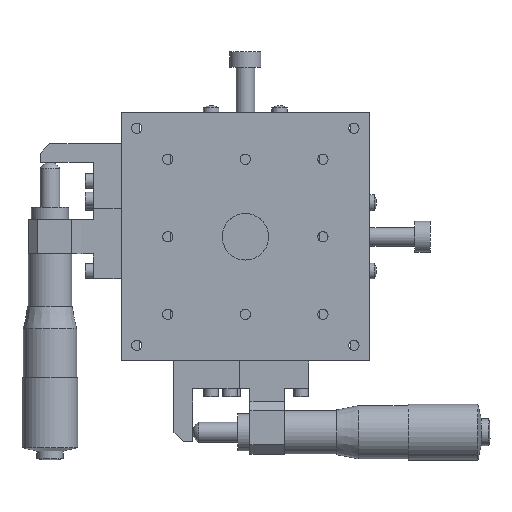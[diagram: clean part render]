
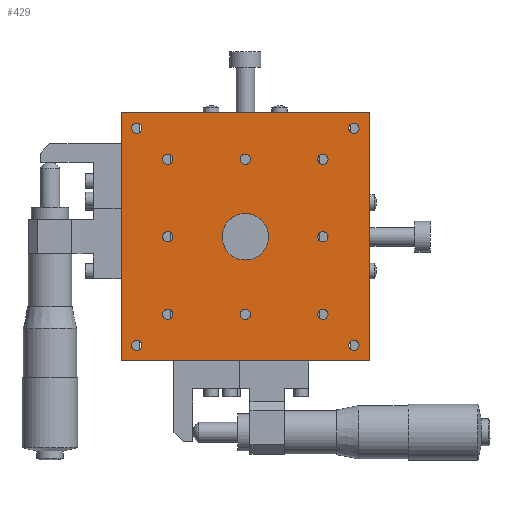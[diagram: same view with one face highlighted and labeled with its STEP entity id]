
A CAD part, top view. The second image highlights one B-rep face of the part: STEP entity #429.
In plain terms, the highlighted planar face has unit normal (0, 0, 1).
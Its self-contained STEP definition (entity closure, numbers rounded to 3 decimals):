
#429 = ADVANCED_FACE( '', ( #1061, #1062, #1063, #1064, #1065, #1066, #1067, #1068, #1069, #1070, #1071, #1072, #1073, #1074 ), #1075, .T. );
#1061 = FACE_BOUND( '', #2004, .T. );
#1062 = FACE_BOUND( '', #2005, .T. );
#1063 = FACE_BOUND( '', #2006, .T. );
#1064 = FACE_BOUND( '', #2007, .T. );
#1065 = FACE_BOUND( '', #2008, .T. );
#1066 = FACE_BOUND( '', #2009, .T. );
#1067 = FACE_BOUND( '', #2010, .T. );
#1068 = FACE_BOUND( '', #2011, .T. );
#1069 = FACE_BOUND( '', #2012, .T. );
#1070 = FACE_BOUND( '', #2013, .T. );
#1071 = FACE_BOUND( '', #2014, .T. );
#1072 = FACE_BOUND( '', #2015, .T. );
#1073 = FACE_OUTER_BOUND( '', #2016, .T. );
#1074 = FACE_BOUND( '', #2017, .T. );
#1075 = PLANE( '', #2018 );
#2004 = EDGE_LOOP( '', ( #3182 ) );
#2005 = EDGE_LOOP( '', ( #3183 ) );
#2006 = EDGE_LOOP( '', ( #3184 ) );
#2007 = EDGE_LOOP( '', ( #3185 ) );
#2008 = EDGE_LOOP( '', ( #3186 ) );
#2009 = EDGE_LOOP( '', ( #3187 ) );
#2010 = EDGE_LOOP( '', ( #3188 ) );
#2011 = EDGE_LOOP( '', ( #3189 ) );
#2012 = EDGE_LOOP( '', ( #3190 ) );
#2013 = EDGE_LOOP( '', ( #3191 ) );
#2014 = EDGE_LOOP( '', ( #3192 ) );
#2015 = EDGE_LOOP( '', ( #3193 ) );
#2016 = EDGE_LOOP( '', ( #3194, #3195, #3196, #3197 ) );
#2017 = EDGE_LOOP( '', ( #3198 ) );
#2018 = AXIS2_PLACEMENT_3D( '', #3199, #3200, #3201 );
#3182 = ORIENTED_EDGE( '', *, *, #5290, .T. );
#3183 = ORIENTED_EDGE( '', *, *, #5291, .T. );
#3184 = ORIENTED_EDGE( '', *, *, #5292, .T. );
#3185 = ORIENTED_EDGE( '', *, *, #5293, .T. );
#3186 = ORIENTED_EDGE( '', *, *, #5294, .T. );
#3187 = ORIENTED_EDGE( '', *, *, #5295, .T. );
#3188 = ORIENTED_EDGE( '', *, *, #5177, .T. );
#3189 = ORIENTED_EDGE( '', *, *, #5230, .T. );
#3190 = ORIENTED_EDGE( '', *, *, #5296, .T. );
#3191 = ORIENTED_EDGE( '', *, *, #5297, .T. );
#3192 = ORIENTED_EDGE( '', *, *, #5298, .T. );
#3193 = ORIENTED_EDGE( '', *, *, #5299, .T. );
#3194 = ORIENTED_EDGE( '', *, *, #5163, .T. );
#3195 = ORIENTED_EDGE( '', *, *, #5300, .T. );
#3196 = ORIENTED_EDGE( '', *, *, #5301, .T. );
#3197 = ORIENTED_EDGE( '', *, *, #5302, .T. );
#3198 = ORIENTED_EDGE( '', *, *, #5303, .T. );
#3199 = CARTESIAN_POINT( '', ( 0., 0., 22. ) );
#3200 = DIRECTION( '', ( 0., 0., 1. ) );
#3201 = DIRECTION( '', ( 1., 0., 0. ) );
#5163 = EDGE_CURVE( '', #6149, #6146, #6150, .T. );
#5177 = EDGE_CURVE( '', #6171, #6171, #6172, .T. );
#5230 = EDGE_CURVE( '', #6261, #6261, #6262, .T. );
#5290 = EDGE_CURVE( '', #6359, #6359, #6360, .T. );
#5291 = EDGE_CURVE( '', #6361, #6361, #6362, .T. );
#5292 = EDGE_CURVE( '', #6363, #6363, #6364, .T. );
#5293 = EDGE_CURVE( '', #6365, #6365, #6366, .T. );
#5294 = EDGE_CURVE( '', #6367, #6367, #6368, .T. );
#5295 = EDGE_CURVE( '', #6369, #6369, #6370, .T. );
#5296 = EDGE_CURVE( '', #6371, #6371, #6372, .T. );
#5297 = EDGE_CURVE( '', #6373, #6373, #6374, .T. );
#5298 = EDGE_CURVE( '', #6375, #6375, #6376, .T. );
#5299 = EDGE_CURVE( '', #6377, #6377, #6378, .T. );
#5300 = EDGE_CURVE( '', #6146, #6379, #6380, .T. );
#5301 = EDGE_CURVE( '', #6379, #6381, #6382, .T. );
#5302 = EDGE_CURVE( '', #6381, #6149, #6383, .T. );
#5303 = EDGE_CURVE( '', #6384, #6384, #6385, .F. );
#6146 = VERTEX_POINT( '', #7545 );
#6149 = VERTEX_POINT( '', #7549 );
#6150 = LINE( '', #7550, #7551 );
#6171 = VERTEX_POINT( '', #7577 );
#6172 = CIRCLE( '', #7578, 1.65 );
#6261 = VERTEX_POINT( '', #7706 );
#6262 = CIRCLE( '', #7707, 1.65 );
#6359 = VERTEX_POINT( '', #7838 );
#6360 = CIRCLE( '', #7839, 1.65 );
#6361 = VERTEX_POINT( '', #7840 );
#6362 = CIRCLE( '', #7841, 1.65 );
#6363 = VERTEX_POINT( '', #7842 );
#6364 = CIRCLE( '', #7843, 1.65 );
#6365 = VERTEX_POINT( '', #7844 );
#6366 = CIRCLE( '', #7845, 1.65 );
#6367 = VERTEX_POINT( '', #7846 );
#6368 = CIRCLE( '', #7847, 1.65 );
#6369 = VERTEX_POINT( '', #7848 );
#6370 = CIRCLE( '', #7849, 1.65 );
#6371 = VERTEX_POINT( '', #7850 );
#6372 = CIRCLE( '', #7851, 1.65 );
#6373 = VERTEX_POINT( '', #7852 );
#6374 = CIRCLE( '', #7853, 1.65 );
#6375 = VERTEX_POINT( '', #7854 );
#6376 = CIRCLE( '', #7855, 1.65 );
#6377 = VERTEX_POINT( '', #7856 );
#6378 = CIRCLE( '', #7857, 1.65 );
#6379 = VERTEX_POINT( '', #7858 );
#6380 = LINE( '', #7859, #7860 );
#6381 = VERTEX_POINT( '', #7861 );
#6382 = LINE( '', #7862, #7863 );
#6383 = LINE( '', #7864, #7865 );
#6384 = VERTEX_POINT( '', #7866 );
#6385 = CIRCLE( '', #7867, 7.5 );
#7545 = CARTESIAN_POINT( '', ( 40., 40., 22. ) );
#7549 = CARTESIAN_POINT( '', ( 40., -40., 22. ) );
#7550 = CARTESIAN_POINT( '', ( 40., 0., 22. ) );
#7551 = VECTOR( '', #9117, 1000. );
#7577 = CARTESIAN_POINT( '', ( 0., -26.65, 22. ) );
#7578 = AXIS2_PLACEMENT_3D( '', #9135, #9136, #9137 );
#7706 = CARTESIAN_POINT( '', ( -25., -26.65, 22. ) );
#7707 = AXIS2_PLACEMENT_3D( '', #9192, #9193, #9194 );
#7838 = CARTESIAN_POINT( '', ( 25., 23.35, 22. ) );
#7839 = AXIS2_PLACEMENT_3D( '', #9256, #9257, #9258 );
#7840 = CARTESIAN_POINT( '', ( 0., 23.35, 22. ) );
#7841 = AXIS2_PLACEMENT_3D( '', #9259, #9260, #9261 );
#7842 = CARTESIAN_POINT( '', ( -25., 23.35, 22. ) );
#7843 = AXIS2_PLACEMENT_3D( '', #9262, #9263, #9264 );
#7844 = CARTESIAN_POINT( '', ( -25., -1.65, 22. ) );
#7845 = AXIS2_PLACEMENT_3D( '', #9265, #9266, #9267 );
#7846 = CARTESIAN_POINT( '', ( 25., -1.65, 22. ) );
#7847 = AXIS2_PLACEMENT_3D( '', #9268, #9269, #9270 );
#7848 = CARTESIAN_POINT( '', ( 25., -26.65, 22. ) );
#7849 = AXIS2_PLACEMENT_3D( '', #9271, #9272, #9273 );
#7850 = CARTESIAN_POINT( '', ( -35., 33.35, 22. ) );
#7851 = AXIS2_PLACEMENT_3D( '', #9274, #9275, #9276 );
#7852 = CARTESIAN_POINT( '', ( 35., 33.35, 22. ) );
#7853 = AXIS2_PLACEMENT_3D( '', #9277, #9278, #9279 );
#7854 = CARTESIAN_POINT( '', ( 35., -36.65, 22. ) );
#7855 = AXIS2_PLACEMENT_3D( '', #9280, #9281, #9282 );
#7856 = CARTESIAN_POINT( '', ( -35., -36.65, 22. ) );
#7857 = AXIS2_PLACEMENT_3D( '', #9283, #9284, #9285 );
#7858 = CARTESIAN_POINT( '', ( -40., 40., 22. ) );
#7859 = CARTESIAN_POINT( '', ( 0., 40., 22. ) );
#7860 = VECTOR( '', #9286, 1000. );
#7861 = CARTESIAN_POINT( '', ( -40., -40., 22. ) );
#7862 = CARTESIAN_POINT( '', ( -40., 0., 22. ) );
#7863 = VECTOR( '', #9287, 1000. );
#7864 = CARTESIAN_POINT( '', ( 0., -40., 22. ) );
#7865 = VECTOR( '', #9288, 1000. );
#7866 = CARTESIAN_POINT( '', ( 7.5, 0., 22. ) );
#7867 = AXIS2_PLACEMENT_3D( '', #9289, #9290, #9291 );
#9117 = DIRECTION( '', ( 0., 1., 0. ) );
#9135 = CARTESIAN_POINT( '', ( 0., -25., 22. ) );
#9136 = DIRECTION( '', ( 0., 0., -1. ) );
#9137 = DIRECTION( '', ( 0., -1., 0. ) );
#9192 = CARTESIAN_POINT( '', ( -25., -25., 22. ) );
#9193 = DIRECTION( '', ( 0., 0., -1. ) );
#9194 = DIRECTION( '', ( 0., -1., 0. ) );
#9256 = CARTESIAN_POINT( '', ( 25., 25., 22. ) );
#9257 = DIRECTION( '', ( 0., 0., -1. ) );
#9258 = DIRECTION( '', ( 0., -1., 0. ) );
#9259 = CARTESIAN_POINT( '', ( 0., 25., 22. ) );
#9260 = DIRECTION( '', ( 0., 0., -1. ) );
#9261 = DIRECTION( '', ( 0., -1., 0. ) );
#9262 = CARTESIAN_POINT( '', ( -25., 25., 22. ) );
#9263 = DIRECTION( '', ( 0., 0., -1. ) );
#9264 = DIRECTION( '', ( 0., -1., 0. ) );
#9265 = CARTESIAN_POINT( '', ( -25., 0., 22. ) );
#9266 = DIRECTION( '', ( 0., 0., -1. ) );
#9267 = DIRECTION( '', ( 0., -1., 0. ) );
#9268 = CARTESIAN_POINT( '', ( 25., 0., 22. ) );
#9269 = DIRECTION( '', ( 0., 0., -1. ) );
#9270 = DIRECTION( '', ( 0., -1., 0. ) );
#9271 = CARTESIAN_POINT( '', ( 25., -25., 22. ) );
#9272 = DIRECTION( '', ( 0., 0., -1. ) );
#9273 = DIRECTION( '', ( 0., -1., 0. ) );
#9274 = CARTESIAN_POINT( '', ( -35., 35., 22. ) );
#9275 = DIRECTION( '', ( 0., 0., -1. ) );
#9276 = DIRECTION( '', ( 0., -1., 0. ) );
#9277 = CARTESIAN_POINT( '', ( 35., 35., 22. ) );
#9278 = DIRECTION( '', ( 0., 0., -1. ) );
#9279 = DIRECTION( '', ( 0., -1., 0. ) );
#9280 = CARTESIAN_POINT( '', ( 35., -35., 22. ) );
#9281 = DIRECTION( '', ( 0., 0., -1. ) );
#9282 = DIRECTION( '', ( 0., -1., 0. ) );
#9283 = CARTESIAN_POINT( '', ( -35., -35., 22. ) );
#9284 = DIRECTION( '', ( 0., 0., -1. ) );
#9285 = DIRECTION( '', ( 0., -1., 0. ) );
#9286 = DIRECTION( '', ( -1., 0., 0. ) );
#9287 = DIRECTION( '', ( 0., -1., 0. ) );
#9288 = DIRECTION( '', ( 1., 0., 0. ) );
#9289 = CARTESIAN_POINT( '', ( 0., 0., 22. ) );
#9290 = DIRECTION( '', ( 0., 0., 1. ) );
#9291 = DIRECTION( '', ( 1., 0., 0. ) );
